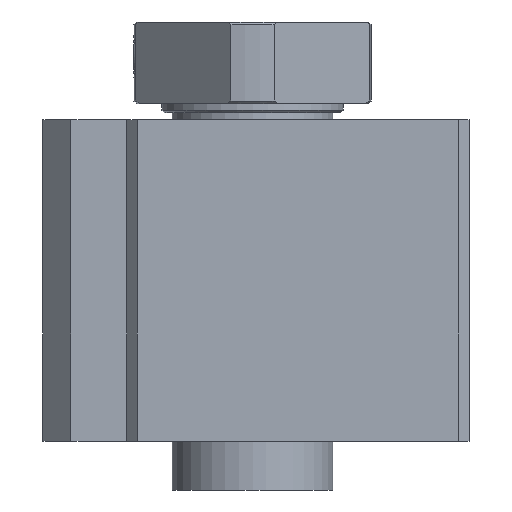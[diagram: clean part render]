
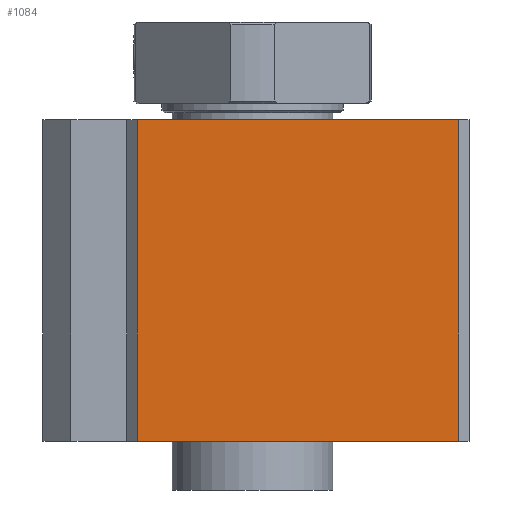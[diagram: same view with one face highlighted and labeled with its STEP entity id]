
A CAD part, left-side view. The second image highlights one B-rep face of the part: STEP entity #1084.
In plain terms, the highlighted planar face has unit normal (-1, 0, 0).
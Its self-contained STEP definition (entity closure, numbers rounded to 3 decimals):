
#70=LINE('',#1643,#146);
#84=LINE('',#1679,#160);
#85=LINE('',#1682,#161);
#86=LINE('',#1683,#162);
#146=VECTOR('',#1322,1000.);
#160=VECTOR('',#1346,1000.);
#161=VECTOR('',#1347,1000.);
#162=VECTOR('',#1348,1000.);
#224=PLANE('',#1197);
#281=ORIENTED_EDGE('',*,*,#565,.F.);
#282=ORIENTED_EDGE('',*,*,#566,.F.);
#283=ORIENTED_EDGE('',*,*,#548,.T.);
#284=ORIENTED_EDGE('',*,*,#567,.T.);
#548=EDGE_CURVE('',#690,#691,#70,.T.);
#565=EDGE_CURVE('',#707,#708,#84,.T.);
#566=EDGE_CURVE('',#690,#707,#85,.T.);
#567=EDGE_CURVE('',#691,#708,#86,.T.);
#690=VERTEX_POINT('',#1644);
#691=VERTEX_POINT('',#1645);
#707=VERTEX_POINT('',#1680);
#708=VERTEX_POINT('',#1681);
#848=EDGE_LOOP('',(#281,#282,#283,#284));
#958=FACE_BOUND('',#848,.T.);
#1084=ADVANCED_FACE('',(#958),#224,.T.);
#1197=AXIS2_PLACEMENT_3D('',#1678,#1344,#1345);
#1322=DIRECTION('',(0.,-1.,0.));
#1344=DIRECTION('',(-1.,0.,0.));
#1345=DIRECTION('',(0.,0.,1.));
#1346=DIRECTION('',(0.,-1.,0.));
#1347=DIRECTION('',(0.,0.,1.));
#1348=DIRECTION('',(0.,0.,1.));
#1643=CARTESIAN_POINT('',(-26.,8.25,-23.));
#1644=CARTESIAN_POINT('',(-26.,8.25,-23.));
#1645=CARTESIAN_POINT('',(-26.,-14.75,-23.));
#1678=CARTESIAN_POINT('',(-26.,8.25,-23.));
#1679=CARTESIAN_POINT('',(-26.,8.25,0.));
#1680=CARTESIAN_POINT('',(-26.,8.25,0.));
#1681=CARTESIAN_POINT('',(-26.,-14.75,0.));
#1682=CARTESIAN_POINT('',(-26.,8.25,-23.));
#1683=CARTESIAN_POINT('',(-26.,-14.75,-23.));
